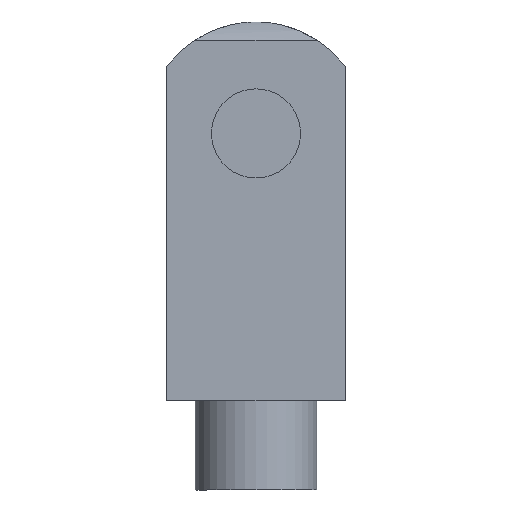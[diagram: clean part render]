
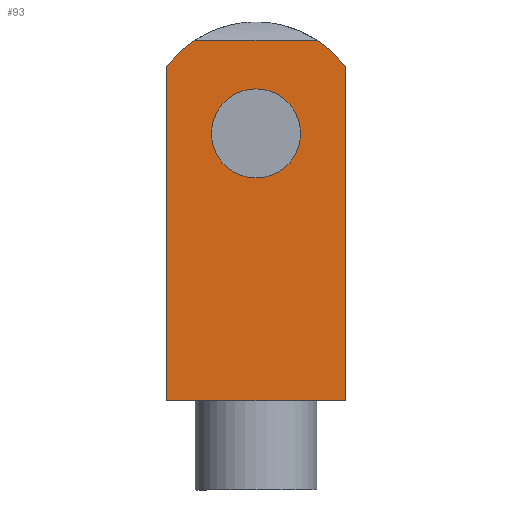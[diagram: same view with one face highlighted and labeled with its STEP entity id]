
A CAD part, left-side view. The second image highlights one B-rep face of the part: STEP entity #93.
In plain terms, the highlighted planar face has unit normal (-1, 0, 0).
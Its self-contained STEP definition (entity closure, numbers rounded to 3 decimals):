
#93 = ADVANCED_FACE( '', ( #207, #208 ), #209, .F. );
#207 = FACE_BOUND( '', #334, .T. );
#208 = FACE_OUTER_BOUND( '', #335, .T. );
#209 = PLANE( '', #336 );
#334 = EDGE_LOOP( '', ( #519 ) );
#335 = EDGE_LOOP( '', ( #520, #521, #522, #523, #524, #525 ) );
#336 = AXIS2_PLACEMENT_3D( '', #526, #527, #528 );
#519 = ORIENTED_EDGE( '', *, *, #691, .T. );
#520 = ORIENTED_EDGE( '', *, *, #675, .T. );
#521 = ORIENTED_EDGE( '', *, *, #695, .F. );
#522 = ORIENTED_EDGE( '', *, *, #640, .F. );
#523 = ORIENTED_EDGE( '', *, *, #669, .F. );
#524 = ORIENTED_EDGE( '', *, *, #696, .F. );
#525 = ORIENTED_EDGE( '', *, *, #636, .T. );
#526 = CARTESIAN_POINT( '', ( -17., 20., 0. ) );
#527 = DIRECTION( '', ( 1., 0., 0. ) );
#528 = DIRECTION( '', ( 0., 0., -1. ) );
#636 = EDGE_CURVE( '', #729, #727, #730, .T. );
#640 = EDGE_CURVE( '', #735, #736, #737, .T. );
#669 = EDGE_CURVE( '', #782, #735, #784, .T. );
#675 = EDGE_CURVE( '', #727, #790, #792, .T. );
#691 = EDGE_CURVE( '', #816, #816, #817, .T. );
#695 = EDGE_CURVE( '', #736, #790, #822, .T. );
#696 = EDGE_CURVE( '', #729, #782, #823, .T. );
#727 = VERTEX_POINT( '', #860 );
#729 = VERTEX_POINT( '', #863 );
#730 = LINE( '', #864, #865 );
#735 = VERTEX_POINT( '', #872 );
#736 = VERTEX_POINT( '', #873 );
#737 = LINE( '', #874, #875 );
#782 = VERTEX_POINT( '', #977 );
#784 = CIRCLE( '', #980, 25. );
#790 = VERTEX_POINT( '', #988 );
#792 = LINE( '', #991, #992 );
#816 = VERTEX_POINT( '', #1016 );
#817 = CIRCLE( '', #1017, 10. );
#822 = CIRCLE( '', #1022, 25. );
#823 = LINE( '', #1023, #1024 );
#860 = CARTESIAN_POINT( '', ( -17., -20., 0. ) );
#863 = CARTESIAN_POINT( '', ( -17., 20., 0. ) );
#864 = CARTESIAN_POINT( '', ( -17., 20., 0. ) );
#865 = VECTOR( '', #1081, 1000. );
#872 = CARTESIAN_POINT( '', ( -17., 13.748, 80.881 ) );
#873 = CARTESIAN_POINT( '', ( -17., -13.748, 80.881 ) );
#874 = CARTESIAN_POINT( '', ( -17., 20., 80.881 ) );
#875 = VECTOR( '', #1084, 1000. );
#977 = CARTESIAN_POINT( '', ( -17., 20., 75. ) );
#980 = AXIS2_PLACEMENT_3D( '', #1124, #1125, #1126 );
#988 = CARTESIAN_POINT( '', ( -17., -20., 75. ) );
#991 = CARTESIAN_POINT( '', ( -17., -20., 0. ) );
#992 = VECTOR( '', #1130, 1000. );
#1016 = CARTESIAN_POINT( '', ( -17., 0., 50. ) );
#1017 = AXIS2_PLACEMENT_3D( '', #1155, #1156, #1157 );
#1022 = AXIS2_PLACEMENT_3D( '', #1161, #1162, #1163 );
#1023 = CARTESIAN_POINT( '', ( -17., 20., 0. ) );
#1024 = VECTOR( '', #1164, 1000. );
#1081 = DIRECTION( '', ( 0., -1., 0. ) );
#1084 = DIRECTION( '', ( 0., -1., 0. ) );
#1124 = CARTESIAN_POINT( '', ( -17., 0., 60. ) );
#1125 = DIRECTION( '', ( 1., 0., 0. ) );
#1126 = DIRECTION( '', ( 0., 0., -1. ) );
#1130 = DIRECTION( '', ( 0., 0., 1. ) );
#1155 = CARTESIAN_POINT( '', ( -17., 0., 60. ) );
#1156 = DIRECTION( '', ( 1., 0., 0. ) );
#1157 = DIRECTION( '', ( 0., 0., -1. ) );
#1161 = CARTESIAN_POINT( '', ( -17., 0., 60. ) );
#1162 = DIRECTION( '', ( 1., 0., 0. ) );
#1163 = DIRECTION( '', ( 0., 0., -1. ) );
#1164 = DIRECTION( '', ( 0., 0., 1. ) );
